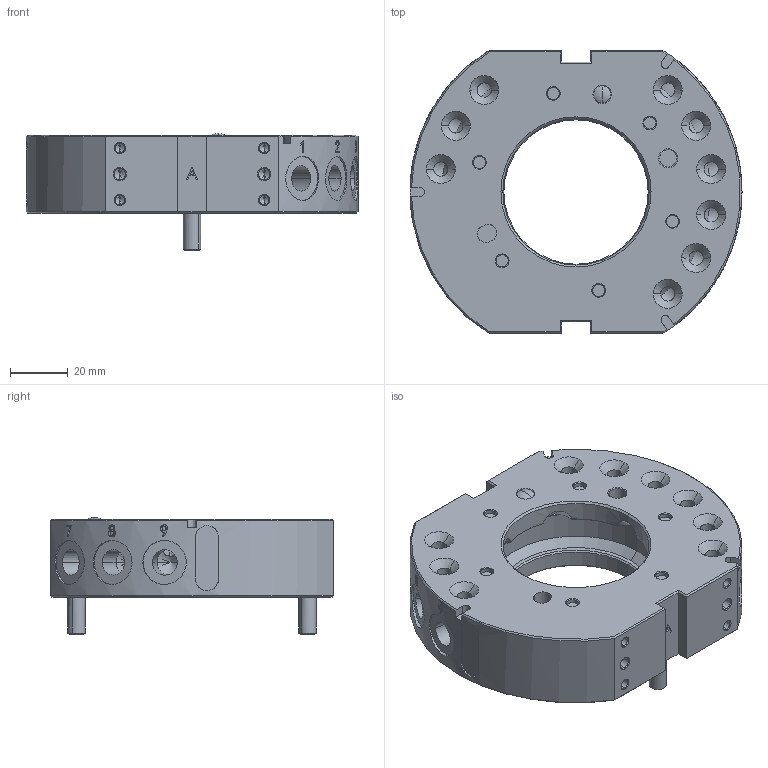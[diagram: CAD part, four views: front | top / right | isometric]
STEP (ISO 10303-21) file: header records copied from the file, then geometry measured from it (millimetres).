
FILE_DESCRIPTION (( 'STEP AP203' ), '1' );
FILE_NAME ('QCA-50G.STEP', '2024-03-19T08:21:59', ( '微软用户' ), ( '微软中国' ), 'SwSTEP 2.0', 'SolidWorks 2018', '' );
FILE_SCHEMA (( 'CONFIG_CONTROL_DESIGN' ));
Length unit declared in the file: millimetre
Products named in the file (1): QCA-50G
Bounding box: 115 x 98 x 40.6 mm (x, y, z)
Volume: 179790.5 mm3; surface area: 45511.3 mm2
Topology: 1 solids, 4 shells, 1676 faces, 3658 edges, 2006 vertices
Faces by surface type: cone 861, cylinder 516, plane 244, bspline 39, torus 16
Entity records: 49891 total; most frequent: CARTESIAN_POINT 13285, DIRECTION 8237, ORIENTED_EDGE 7172, EDGE_CURVE 3586, AXIS2_PLACEMENT_3D 3220, VERTEX_POINT 2006, LINE 1797, VECTOR 1797
